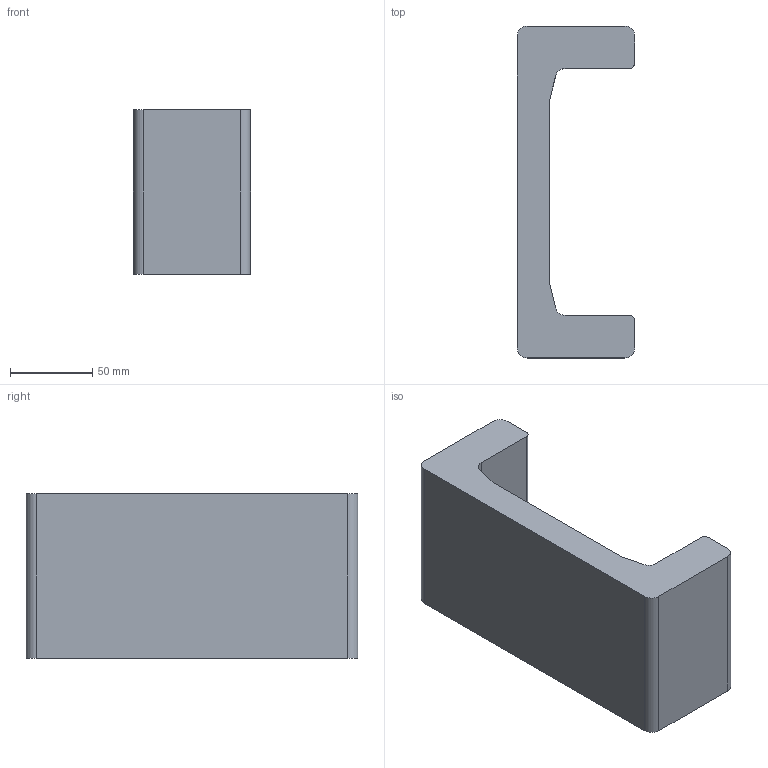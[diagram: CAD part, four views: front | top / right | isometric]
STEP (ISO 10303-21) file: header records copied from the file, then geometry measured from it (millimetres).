
FILE_DESCRIPTION (( 'STEP AP214' ), '1' );
FILE_NAME ('3D5.2757.STEP', '2013-12-17T06:59:36', ( 'usuario' ), ( 'Hewlett-Packard Company' ), 'SwSTEP 2.0', 'SolidWorks 2017', '' );
FILE_SCHEMA (( 'AUTOMOTIVE_DESIGN' ));
Length unit declared in the file: millimetre
Products named in the file (1): 3D5.2757
Bounding box: 71.2 x 201.5 x 100 mm (x, y, z)
Volume: 664534.1 mm3; surface area: 75743.3 mm2
Topology: 1 solids, 1 shells, 20 faces, 54 edges, 36 vertices
Faces by surface type: plane 12, cylinder 8
Entity records: 668 total; most frequent: DIRECTION 112, CARTESIAN_POINT 111, ORIENTED_EDGE 108, EDGE_CURVE 54, VECTOR 38, LINE 38, AXIS2_PLACEMENT_3D 37, VERTEX_POINT 36
